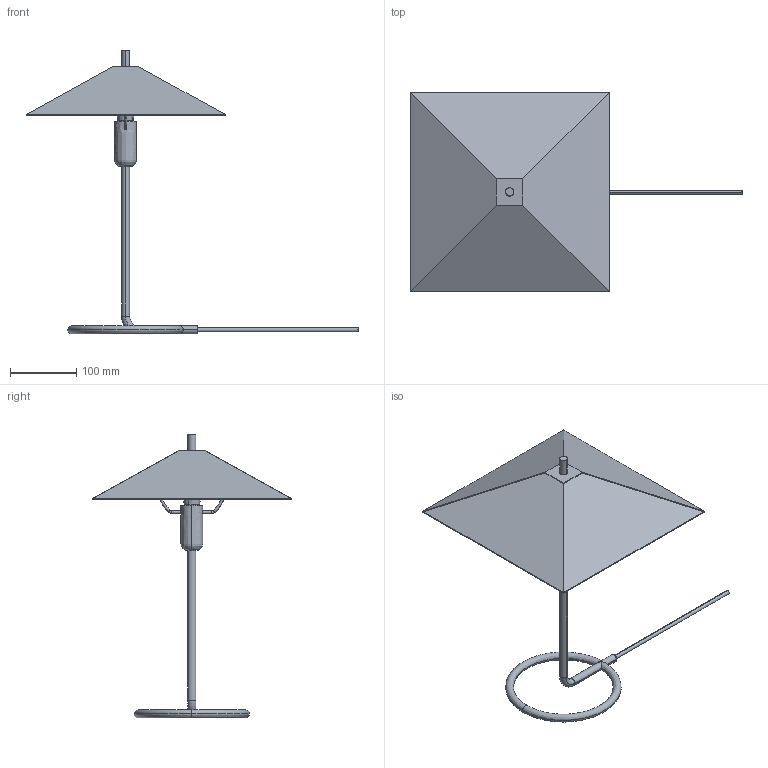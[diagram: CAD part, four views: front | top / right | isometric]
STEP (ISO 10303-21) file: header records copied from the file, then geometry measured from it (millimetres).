
FILE_DESCRIPTION(/* description */ (''),/* implementation_level */ '2;1');
FILE_NAME(/* name */ 'Filo Table Lamp Square_Ferm Living_3D',/* time_stamp */ '2023-03-20T10:45:05+01:00',/* author */ (''),/* organization */ (''),/* preprocessor_version */ 'ST-DEVELOPER v16.5',/* originating_system */ 'Rhino 7.27',/* authorisation */ '');
FILE_SCHEMA (('CONFIG_CONTROL_DESIGN'));
Length unit declared in the file: millimetre
Products named in the file (1): Document
Bounding box: 500.17 x 300 x 427.52 mm (x, y, z)
Volume: 308098.4 mm3; surface area: 304411.4 mm2
Topology: 12 solids, 12 shells, 134 faces, 298 edges, 182 vertices
Faces by surface type: cylinder 59, plane 39, bspline 36
Entity records: 12643 total; most frequent: CARTESIAN_POINT 10642, ORIENTED_EDGE 592, EDGE_CURVE 296, VERTEX_POINT 182, EDGE_LOOP 142, ADVANCED_FACE 134, FACE_OUTER_BOUND 134, B_SPLINE_CURVE_WITH_KNOTS 108
